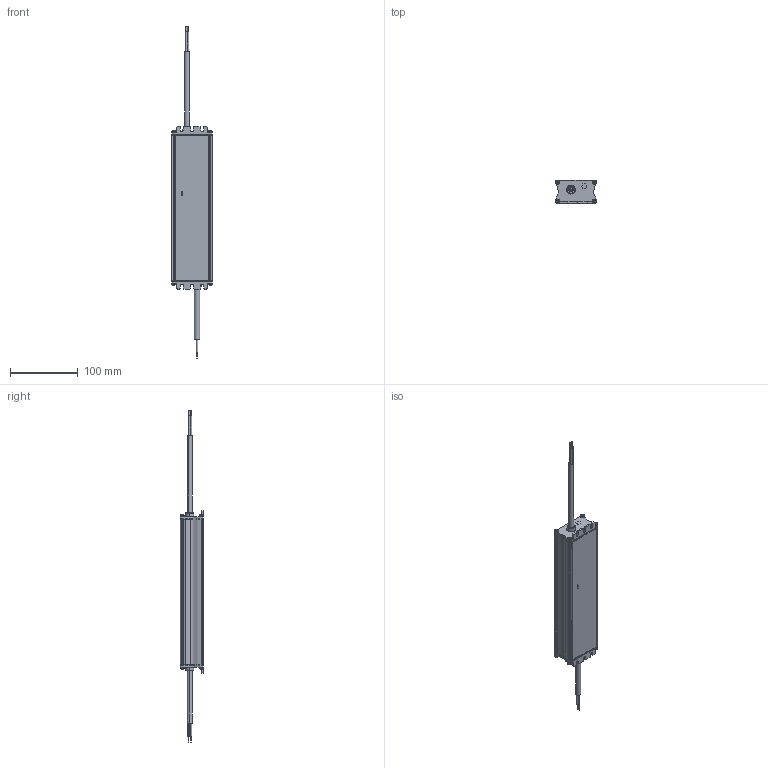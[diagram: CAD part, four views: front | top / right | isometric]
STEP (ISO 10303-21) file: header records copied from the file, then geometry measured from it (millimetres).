
FILE_DESCRIPTION (( 'STEP AP203' ), '1' );
FILE_NAME ('3D_JPVO-150024FA.STEP', '2020-11-12T12:06:11', ( '' ), ( '' ), 'SwSTEP 2.0', 'SolidWorks 2016', '' );
FILE_SCHEMA (( 'CONFIG_CONTROL_DESIGN' ));
Length unit declared in the file: millimetre
Products named in the file (47): PIN-2_4_HTE; P-DSO-8; Choke(28.2x28.2x21.5); CY2; CHOKE(8X4X8H); X-cap(18x11x18.5H); SMA-2P(H=2.29); NTC(D12mmT4mm); 324714070101; 3105032400; M3-10D63; Output cap (90W); 324714060101; TO-220FPAB; Washer D3; R0003; 電容(D)10mm(H)16mm; DPAK-3P; PFC inductor(30x30x28.8H); 電容(D)16mm(H)26mm; X-cap(18x8x14.5H); 7.5x4x2H; HSK-Q1; 3348132600 body; Input cap (90W); HO27; 3992146600; 3247314800; CHOKE(17.5X17X11.5); R3216; CABLE TIES(3.6); 1.8x0.9x0.5; hs1; 3247346000; 7x6x2.4; 3646617401; 3D_JPVO-150024FA; 3646617002; 3348132600_ass; pin2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
Assembly tree (75 placements, depth 4):
  3D_JPVO-150024FA
    3992146600
    324714070101
    Input cap (90W)
    3646617401
    CABLE TIES(3.6)  x2
    324714060101
    Output cap (90W)
    3646617002
    M3-10D63  x8
    JPVO-150024FA PWBA_20200701
      JPVO-150024FA-PWB
      NTC(D12mmT4mm)  x2
      電容(D)10mm(H)16mm  x4
      CY2  x2
      PFC inductor(30x30x28.8H)
      X-cap(18x8x14.5H)
      Choke(28.2x28.2x21.5)
      39x31x21H
      電容(D)16mm(H)26mm
      HSK-Q1
        hs1
        pin1
        pin2
        TO-220FPAB
        310505160100
      3348132600_ass
        3348132600 body
        PIN-2_4_HTE
        TO-220 (LF50ABV)  x2
        3105032400  x2
      X-cap(13x5x11H)
      CHOKE(17.5X17X11.5)
      X-cap(18x11x18.5H)
      CHOKE(8X4X8H)
      7x6x2.4  x5
      DPAK-3P  x2
      P-DSO-8  x2
      R3216  x2
      HO27
      7.5x4x2H
      R0003
      SMA-2P(H=2.29)
      1.8x0.9x0.5
    3247314800
    3247346000
    Washer D3  x8
Bounding box: 60.69 x 35.2 x 491.3 mm (x, y, z)
Volume: 184658.1 mm3; surface area: 230988.1 mm2
Topology: 74 solids, 75 shells, 3519 faces, 9491 edges, 6125 vertices
Faces by surface type: plane 1634, cylinder 1281, torus 292, bspline 207, cone 53, sphere 52
Entity records: 109963 total; most frequent: CARTESIAN_POINT 41918, ORIENTED_EDGE 13334, DIRECTION 12688, EDGE_CURVE 6667, AXIS2_PLACEMENT_3D 4458, VERTEX_POINT 4342, LINE 3772, VECTOR 3772
